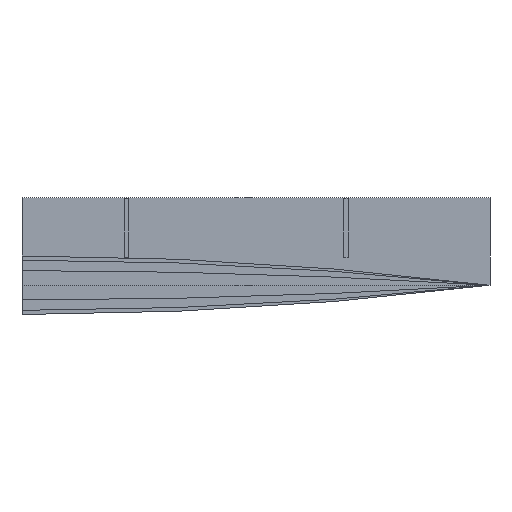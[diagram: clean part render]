
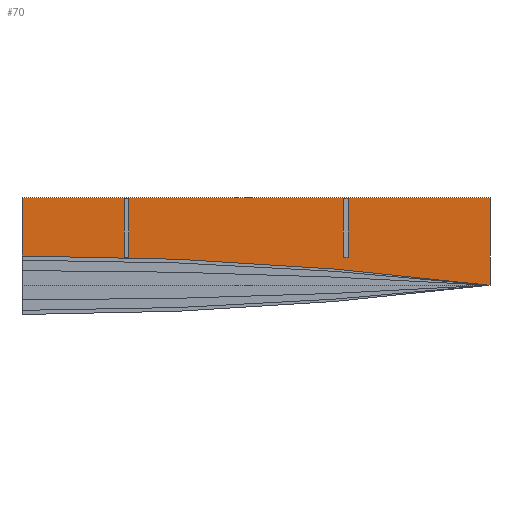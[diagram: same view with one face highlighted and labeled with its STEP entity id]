
A CAD part, front view. The second image highlights one B-rep face of the part: STEP entity #70.
In plain terms, the highlighted planar face has unit normal (0, -1, 0).
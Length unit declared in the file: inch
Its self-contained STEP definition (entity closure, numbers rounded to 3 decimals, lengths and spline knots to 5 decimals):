
#70=ADVANCED_FACE('',(#124),#748,.T.);
#124=FACE_OUTER_BOUND('',#178,.T.);
#178=EDGE_LOOP('',(#352,#353,#354,#355));
#352=ORIENTED_EDGE('',*,*,#489,.T.);
#353=ORIENTED_EDGE('',*,*,#491,.T.);
#354=ORIENTED_EDGE('',*,*,#484,.T.);
#355=ORIENTED_EDGE('',*,*,#486,.T.);
#484=EDGE_CURVE('',#687,#689,#606,.T.);
#486=EDGE_CURVE('',#689,#685,#533,.T.);
#489=EDGE_CURVE('',#685,#690,#609,.T.);
#491=EDGE_CURVE('',#690,#687,#611,.T.);
#533=TRIMMED_CURVE($,#545,(#1269),(#1270),.T.,.CARTESIAN.);
#545=CIRCLE('',#906,385.5);
#606=B_SPLINE_CURVE_WITH_KNOTS('',1,(#1263,#1264),.UNSPECIFIED.,.F.,.F.,
(2,2),(204.24981,210.24981),.UNSPECIFIED.);
#609=B_SPLINE_CURVE_WITH_KNOTS('',1,(#1275,#1276),.UNSPECIFIED.,.F.,.F.,
(2,2),(0.,9.),.UNSPECIFIED.);
#611=B_SPLINE_CURVE_WITH_KNOTS('',1,(#1279,#1280),.UNSPECIFIED.,.F.,.F.,
(2,2),(156.24981,204.24981),.UNSPECIFIED.);
#685=VERTEX_POINT('',#1248);
#687=VERTEX_POINT('',#1250);
#689=VERTEX_POINT('',#1252);
#690=VERTEX_POINT('',#1253);
#748=PLANE('',#903);
#903=AXIS2_PLACEMENT_3D('',#1245,#982,$);
#906=AXIS2_PLACEMENT_3D($,#1268,#986,#987);
#982=DIRECTION('',(0.,-1.,0.));
#986=DIRECTION('',(0.,1.,0.));
#987=DIRECTION('',(0.,0.,1.));
#1245=CARTESIAN_POINT('',(-1063.34355,-0.9583,385.84288));
#1248=CARTESIAN_POINT('',(-1003.34355,-0.9583,390.34288));
#1250=CARTESIAN_POINT('',(-1051.34355,-0.9583,399.34288));
#1252=CARTESIAN_POINT('',(-1051.34355,-0.9583,393.34288));
#1253=CARTESIAN_POINT('',(-1003.34355,-0.9583,399.34288));
#1263=CARTESIAN_POINT('',(-1051.34355,-0.9583,399.34288));
#1264=CARTESIAN_POINT('',(-1051.34355,-0.9583,393.34288));
#1268=CARTESIAN_POINT('',(-1051.34355,-0.9583,7.84288));
#1269=CARTESIAN_POINT('',(-1051.34355,-0.9583,393.34288));
#1270=CARTESIAN_POINT('',(-1003.34355,-0.9583,390.34288));
#1275=CARTESIAN_POINT('',(-1003.34355,-0.9583,390.34288));
#1276=CARTESIAN_POINT('',(-1003.34355,-0.9583,399.34288));
#1279=CARTESIAN_POINT('',(-1003.34355,-0.9583,399.34288));
#1280=CARTESIAN_POINT('',(-1051.34355,-0.9583,399.34288));
